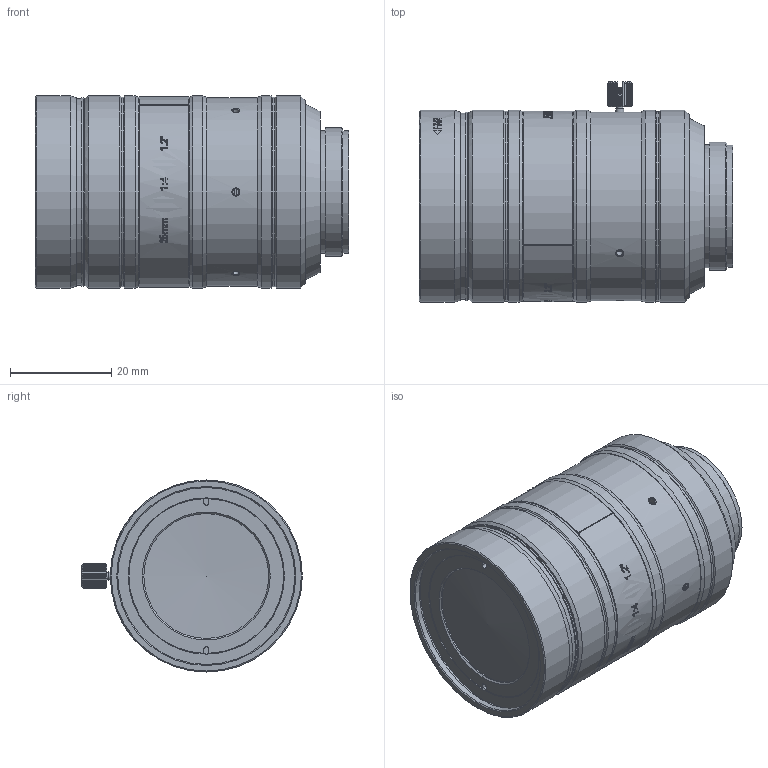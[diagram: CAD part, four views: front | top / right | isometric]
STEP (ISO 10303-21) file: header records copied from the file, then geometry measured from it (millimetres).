
FILE_DESCRIPTION(/* description */ (''),/* implementation_level */ '2;1');
FILE_NAME(/* name */ 'YT60036.stp',/* time_stamp */ '2023-08-01T15:02:59+08:00',/* author */ (''),/* organization */ (''),/* preprocessor_version */ 'ST-DEVELOPER v16.7',/* originating_system */ 'SIEMENS PLM Software NX 12.0',/* authorisation */ '');
FILE_SCHEMA (('AUTOMOTIVE_DESIGN { 1 0 10303 214 3 1 1 1 }'));
Length unit declared in the file: millimetre
Products named in the file (1): jian28B8827An488
Bounding box: 61.98 x 43.65 x 38 mm (x, y, z)
Volume: 60250.1 mm3; surface area: 18891.1 mm2
Topology: 4 solids, 6 shells, 888 faces, 2462 edges, 1637 vertices
Faces by surface type: plane 604, cylinder 115, bspline 74, cone 64, extrusion 29, sphere 2
Full cylindrical faces by diameter (mm): 1.2 x2, 1.25 x4, 1.6 x3, 19.6 x1, 19.9 x1, 20.7 x1, 21.174 x1, 23.5 x2, 23.6 x1, 24.2 x1, 24.3 x1, 24.7 x1, 25.1 x1, 25.4 x1, 26.7 x1, 27 x1, 28.31 x1, 30.5 x1, 30.6 x1, 31.2 x1, 32 x1, 32.4 x1, 35 x1, 35.7 x1, 36.8 x1, 37.3 x2, 37.504 x1, 37.523 x1, 37.537 x1, 38 x6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
Entity records: 38856 total; most frequent: CARTESIAN_POINT 17662, ORIENTED_EDGE 4684, DIRECTION 3830, EDGE_CURVE 2342, VERTEX_POINT 1607, AXIS2_PLACEMENT_3D 1530, EDGE_LOOP 1057, B_SPLINE_CURVE_WITH_KNOTS 893
